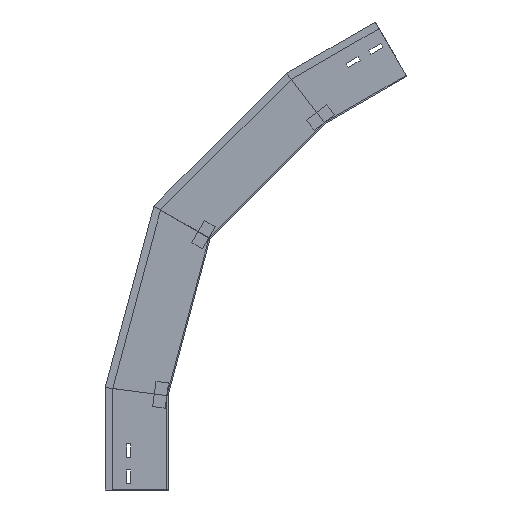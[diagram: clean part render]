
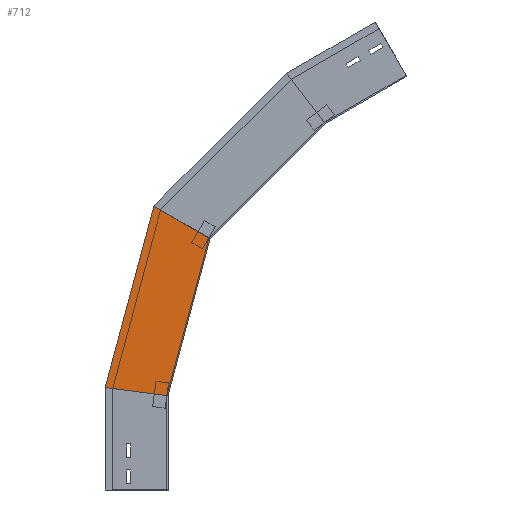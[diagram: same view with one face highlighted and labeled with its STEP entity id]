
A CAD part, left-side view. The second image highlights one B-rep face of the part: STEP entity #712.
In plain terms, the highlighted planar face has unit normal (-1, 0, 0) as drawn and (1, 0, 0) by its records, which use the part's own axes.
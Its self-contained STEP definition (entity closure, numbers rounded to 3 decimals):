
#9 = ORIENTED_EDGE ( 'NONE', *, *, #1470, .F. ) ;
#115 = AXIS2_PLACEMENT_3D ( 'NONE', #638, #370, #1237 ) ;
#236 = PLANE ( 'NONE',  #115 ) ;
#304 = CARTESIAN_POINT ( 'NONE',  ( 0., -250.175, 583.315 ) ) ;
#359 = FACE_OUTER_BOUND ( 'NONE', #847, .T. ) ;
#370 = DIRECTION ( 'NONE',  ( 1., 0., 0. ) ) ;
#423 = EDGE_CURVE ( 'NONE', #838, #911, #1180, .T. ) ;
#459 = CARTESIAN_POINT ( 'NONE',  ( 0., -128.356, 364.771 ) ) ;
#483 = DIRECTION ( 'NONE',  ( 0., -0.609, -0.793 ) ) ;
#516 = ORIENTED_EDGE ( 'NONE', *, *, #1358, .F. ) ;
#554 = VECTOR ( 'NONE', #843, 1000. ) ;
#558 = CARTESIAN_POINT ( 'NONE',  ( 0., 22.623, 451.939 ) ) ;
#611 = CARTESIAN_POINT ( 'NONE',  ( 0., -273.105, 553.433 ) ) ;
#638 = CARTESIAN_POINT ( 'NONE',  ( 0., -46.122, 379.263 ) ) ;
#659 = ORIENTED_EDGE ( 'NONE', *, *, #1105, .T. ) ;
#696 = VERTEX_POINT ( 'NONE', #1514 ) ;
#712 = ADVANCED_FACE ( 'NONE', ( #359 ), #236, .T. ) ;
#838 = VERTEX_POINT ( 'NONE', #558 ) ;
#843 = DIRECTION ( 'NONE',  ( 0., -0.707, 0.707 ) ) ;
#847 = EDGE_LOOP ( 'NONE', ( #1240, #659, #516, #9 ) ) ;
#881 = DIRECTION ( 'NONE',  ( 0., -0.866, -0.5 ) ) ;
#911 = VERTEX_POINT ( 'NONE', #1079 ) ;
#1031 = VECTOR ( 'NONE', #881, 1000. ) ;
#1079 = CARTESIAN_POINT ( 'NONE',  ( 0., -188.773, 663.335 ) ) ;
#1105 = EDGE_CURVE ( 'NONE', #911, #1542, #1529, .T. ) ;
#1164 = CARTESIAN_POINT ( 'NONE',  ( 0., 24.589, 449.973 ) ) ;
#1180 = LINE ( 'NONE', #1164, #1640 ) ;
#1237 = DIRECTION ( 'NONE',  ( 0., 0., -1. ) ) ;
#1240 = ORIENTED_EDGE ( 'NONE', *, *, #423, .T. ) ;
#1248 = VECTOR ( 'NONE', #483, 1000. ) ;
#1358 = EDGE_CURVE ( 'NONE', #696, #1542, #1385, .T. ) ;
#1385 = LINE ( 'NONE', #1505, #554 ) ;
#1470 = EDGE_CURVE ( 'NONE', #838, #696, #1615, .T. ) ;
#1505 = CARTESIAN_POINT ( 'NONE',  ( 0., -46.122, 379.263 ) ) ;
#1514 = CARTESIAN_POINT ( 'NONE',  ( 0., -67.034, 400.175 ) ) ;
#1529 = LINE ( 'NONE', #611, #1248 ) ;
#1542 = VERTEX_POINT ( 'NONE', #304 ) ;
#1615 = LINE ( 'NONE', #459, #1031 ) ;
#1640 = VECTOR ( 'NONE', #1682, 1000. ) ;
#1682 = DIRECTION ( 'NONE',  ( 0., -0.707, 0.707 ) ) ;
